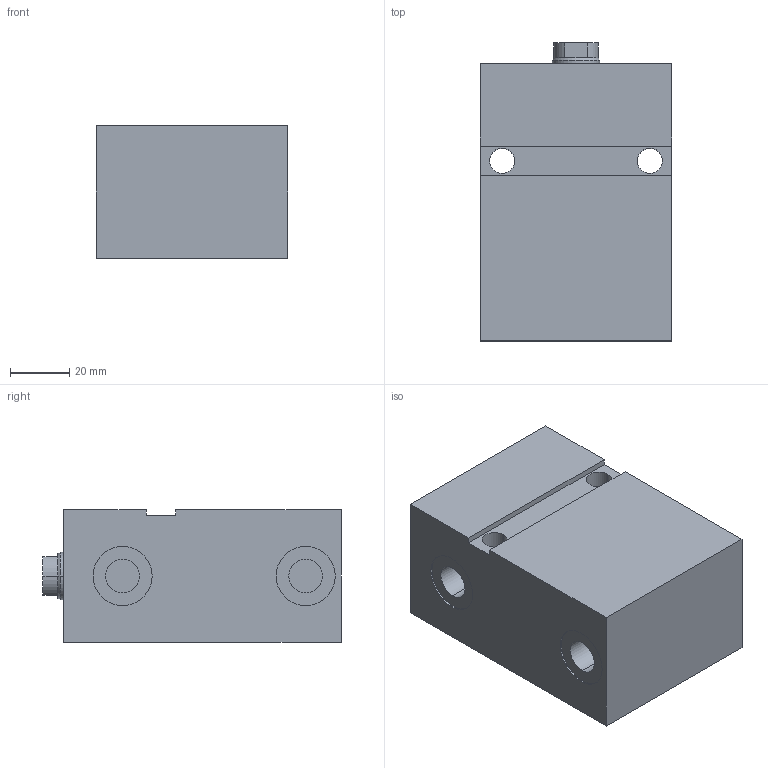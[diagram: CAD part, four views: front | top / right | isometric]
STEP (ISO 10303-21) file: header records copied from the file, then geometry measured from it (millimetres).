
FILE_DESCRIPTION (( 'STEP AP203' ), '1' );
FILE_NAME ('GERMA_Blockzylinder_602-025-050.STEP', '2015-06-20T17:57:46', ( '' ), ( '' ), 'SwSTEP 2.0', 'SolidWorks 2013', '' );
FILE_SCHEMA (( 'CONFIG_CONTROL_DESIGN' ));
Length unit declared in the file: millimetre
Products named in the file (3): GH-600-025_GH-602-025-050; Kolben 60x-025_Kolben DU.25-Hub50-IG; GERMA_Blockzylinder_602-025-050
Assembly tree (2 placements, depth 2):
  GERMA_Blockzylinder_602-025-050
    GH-600-025_GH-602-025-050
    Kolben 60x-025_Kolben DU.25-Hub50-IG
Bounding box: 65 x 101 x 45 mm (x, y, z)
Volume: 250934.1 mm3; surface area: 43022 mm2
Topology: 2 solids, 2 shells, 73 faces, 160 edges, 98 vertices
Faces by surface type: cylinder 33, plane 26, cone 14
Entity records: 2286 total; most frequent: DIRECTION 387, CARTESIAN_POINT 330, ORIENTED_EDGE 308, AXIS2_PLACEMENT_3D 155, EDGE_CURVE 154, VERTEX_POINT 98, EDGE_LOOP 90, VECTOR 77
